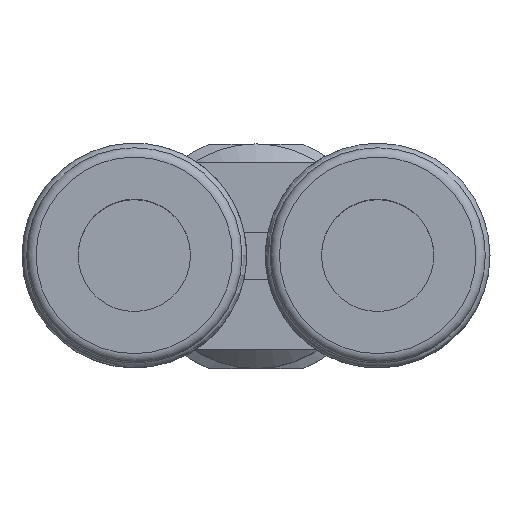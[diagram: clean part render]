
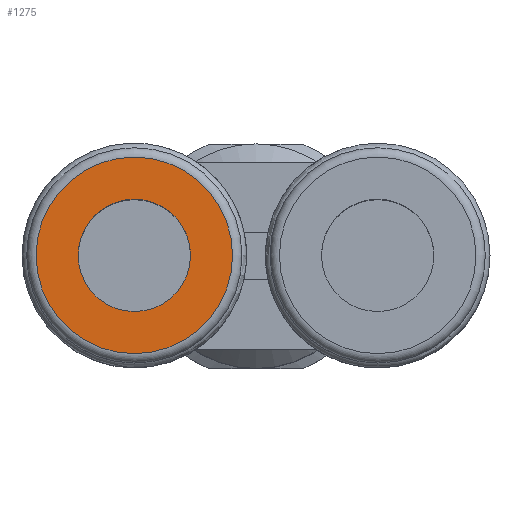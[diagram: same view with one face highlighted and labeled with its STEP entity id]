
A CAD part, top view. The second image highlights one B-rep face of the part: STEP entity #1275.
In plain terms, the highlighted planar face has unit normal (0, 0, 1).
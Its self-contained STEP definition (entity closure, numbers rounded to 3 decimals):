
#186=PLANE($,#1407);
#249=FACE_BOUND($,#406,.T.);
#250=FACE_BOUND($,#407,.T.);
#406=EDGE_LOOP($,(#1003));
#407=EDGE_LOOP($,(#1004));
#512=CIRCLE($,#1399,3.);
#514=CIRCLE($,#1403,5.25);
#607=VERTEX_POINT($,#2121);
#609=VERTEX_POINT($,#2127);
#750=EDGE_CURVE($,#607,#607,#512,.T.);
#752=EDGE_CURVE($,#609,#609,#514,.T.);
#1003=ORIENTED_EDGE($,*,*,#750,.F.);
#1004=ORIENTED_EDGE($,*,*,#752,.T.);
#1275=ADVANCED_FACE($,(#249,#250),#186,.T.);
#1399=AXIS2_PLACEMENT_3D($,#2122,#1658,#1659);
#1403=AXIS2_PLACEMENT_3D($,#2128,#1666,#1667);
#1407=AXIS2_PLACEMENT_3D($,#2134,#1674,#1675);
#1658=DIRECTION('center_axis',(0.,0.,1.));
#1659=DIRECTION('ref_axis',(-1.,0.,0.));
#1666=DIRECTION('center_axis',(0.,0.,1.));
#1667=DIRECTION('ref_axis',(1.,0.,0.));
#1674=DIRECTION('center_axis',(0.,0.,1.));
#1675=DIRECTION('ref_axis',(1.,0.,0.));
#2121=CARTESIAN_POINT('',(-9.5,0.,30.1));
#2122=CARTESIAN_POINT('Origin',(-6.5,0.,30.1));
#2127=CARTESIAN_POINT('',(-11.75,0.,30.1));
#2128=CARTESIAN_POINT('Origin',(-6.5,0.,30.1));
#2134=CARTESIAN_POINT('Origin',(-6.5,0.,30.1));
